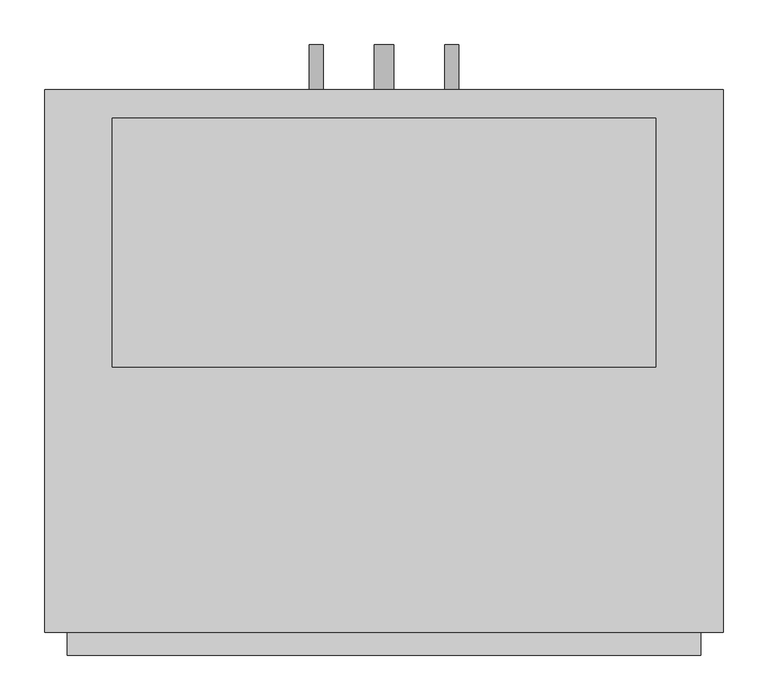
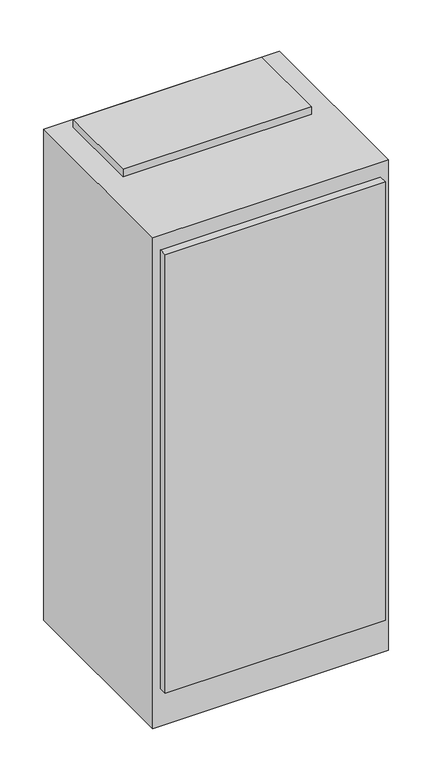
"""IFC4 building model written with IfcOpenShell, lengths in millimetres: proxy geometry, Concealed_Modular_Fan_Coil_Unit_-_42SMA_-_CARRIER_-_2-Pipe_Cool-EHeat_-_NoRisers_2022 : Size 14 - 277v/60Hz/1Ph - 5 Row 12.0kW."""

import ifcopenshell
import ifcopenshell.guid

model = None  # the IFC model being written
_history = None  # IfcOwnerHistory: only IFC2X3 demands one
_inside = {}  # id of a spatial element -> (the spatial element, [elements in it])
_under = {}  # id of a project, library or spatial element -> (it, [spatial elements below it])
_declared = {}  # id of a project -> (the project, [libraries it declares])
_typed = {}  # id of a type object -> (the type object, [elements of that type])
_made_of = {}  # id of a material, layer set ... -> (it, [elements and type objects made of it])


def new_model(schema):
    """Start an empty IFC model of exactly this schema.

    Asked for "IFC4X3", IfcOpenShell would pick the latest addendum, in which some entities
    have other attributes; the version numbers below select the first issue.
    IFC2X3 requires an IfcOwnerHistory on every rooted entity: one is made here for all.
    """
    global model, _history
    if schema == "IFC4X3":
        model = ifcopenshell.file(schema_version=(4, 3, 0, 0))
    else:
        model = ifcopenshell.file(schema=schema)
    _inside.clear()
    _under.clear()
    _declared.clear()
    _typed.clear()
    _made_of.clear()
    _history = None
    if model.schema == "IFC2X3":
        org = make("IfcOrganization", Name="unknown")
        user = make(
            "IfcPersonAndOrganization",
            ThePerson=make("IfcPerson", FamilyName="unknown"),
            TheOrganization=org,
        )
        app = make(
            "IfcApplication",
            ApplicationDeveloper=org,
            Version="unknown",
            ApplicationFullName="unknown",
            ApplicationIdentifier="unknown",
        )
        _history = make(
            "IfcOwnerHistory",
            OwningUser=user,
            OwningApplication=app,
            ChangeAction="ADDED",
            CreationDate=0,
        )
    return model


def make(cls, **values):
    """One entity of the class cls with the attributes given. An attribute that is None is left unset."""
    return model.create_entity(
        cls, **{name: value for name, value in values.items() if value is not None}
    )


def rooted(cls, **values):
    """An entity with a GlobalId (a new one), such as an element, a storey or a relation."""
    return make(cls, GlobalId=ifcopenshell.guid.new(), OwnerHistory=_history, **values)


def si_unit(unit_type, name, prefix=None):
    """IfcSIUnit, for example si_unit("LENGTHUNIT", "METRE", prefix="MILLI")."""
    return make("IfcSIUnit", UnitType=unit_type, Prefix=prefix, Name=name)


def assignment(units):
    """IfcUnitAssignment: the units of a project."""
    return None if units is None else make("IfcUnitAssignment", Units=units)


def point(xyz):
    """IfcCartesianPoint."""
    return None if xyz is None else make("IfcCartesianPoint", Coordinates=xyz)


def direction(xyz):
    """IfcDirection."""
    return None if xyz is None else make("IfcDirection", DirectionRatios=xyz)


def frame(location, z_axis=None, x_axis=None):
    """IfcAxis2Placement3D, a coordinate frame: its origin and axes. An axis left out is left unset."""
    return make(
        "IfcAxis2Placement3D",
        Location=point(location),
        Axis=direction(z_axis),
        RefDirection=direction(x_axis),
    )


def frame_2d(location, x_axis=None):
    """IfcAxis2Placement2D, a coordinate frame in the plane: its origin and x axis."""
    return make(
        "IfcAxis2Placement2D", Location=point(location), RefDirection=direction(x_axis)
    )


def origin():
    """The frame at (0, 0, 0) with its axes left unset."""
    return frame((0.0, 0.0, 0.0))


def origin_with_axes():
    """The frame at (0, 0, 0) with the z axis (0, 0, 1) and the x axis (1, 0, 0) written out."""
    return frame((0.0, 0.0, 0.0), z_axis=(0.0, 0.0, 1.0), x_axis=(1.0, 0.0, 0.0))


def place(relative_to, where):
    """IfcLocalPlacement: puts the frame where relative to a parent placement (None: the world)."""
    return make(
        "IfcLocalPlacement", PlacementRelTo=relative_to, RelativePlacement=where
    )


def context(
    kind, dimensions, precision=None, world=None, true_north=None, identifier=None
):
    """IfcGeometricRepresentationContext, for example the 3D "Model" context."""
    return make(
        "IfcGeometricRepresentationContext",
        ContextIdentifier=identifier,
        ContextType=kind,
        CoordinateSpaceDimension=dimensions,
        Precision=precision,
        WorldCoordinateSystem=world,
        TrueNorth=true_north,
    )


def project(units=None, contexts=None):
    """IfcProject with its units and contexts."""
    return rooted(
        "IfcProject",
        Name="project",
        RepresentationContexts=contexts,
        UnitsInContext=assignment(units),
    )


def spatial(cls, under=None, at=None, **own):
    """A site, building, storey or space (cls), placed at a placement, below another one or the project."""
    s = rooted(cls, ObjectPlacement=at, **own)
    if under is not None:
        _under.setdefault(under.id(), (under, []))[1].append(s)
    return s


def polyline(points):
    """IfcPolyline through the points."""
    return make("IfcPolyline", Points=[point(p) for p in points])


def circle_curve(where, radius):
    """IfcCircle in the frame where."""
    return make("IfcCircle", Position=where, Radius=radius)


def trimmed(basis, trim1, trim2, sense, master):
    """IfcTrimmedCurve: the piece of a basis curve between two trims."""
    return make(
        "IfcTrimmedCurve",
        BasisCurve=basis,
        Trim1=trim1,
        Trim2=trim2,
        SenseAgreement=sense,
        MasterRepresentation=master,
    )


def segment(curve, same_sense, transition):
    """IfcCompositeCurveSegment."""
    return make(
        "IfcCompositeCurveSegment",
        Transition=transition,
        SameSense=same_sense,
        ParentCurve=curve,
    )


def composite_curve(segments, self_intersect=None):
    """IfcCompositeCurve: segments joined end to end."""
    return make("IfcCompositeCurve", Segments=segments, SelfIntersect=self_intersect)


def outline(outer, holes=None, kind="AREA"):
    """IfcArbitraryClosedProfileDef: a profile drawn as a closed curve; with holes, ...WithVoids."""
    if holes is None:
        return make("IfcArbitraryClosedProfileDef", ProfileType=kind, OuterCurve=outer)
    return make(
        "IfcArbitraryProfileDefWithVoids",
        ProfileType=kind,
        OuterCurve=outer,
        InnerCurves=holes,
    )


def extrude(swept, where, along, depth):
    """IfcExtrudedAreaSolid: the profile swept, set in the frame where, extruded along a direction by depth."""
    return make(
        "IfcExtrudedAreaSolid",
        SweptArea=swept,
        Position=where,
        ExtrudedDirection=direction(along),
        Depth=depth,
    )


def shape(context_of_items, identifier, shape_type, items):
    """IfcShapeRepresentation: the items that make up one representation, for example the "Body"."""
    return make(
        "IfcShapeRepresentation",
        ContextOfItems=context_of_items,
        RepresentationIdentifier=identifier,
        RepresentationType=shape_type,
        Items=items,
    )


def source(mapping_origin, context_of_items, identifier, shape_type, items):
    """IfcRepresentationMap: a shape defined once, which mapped items show again and again."""
    return make(
        "IfcRepresentationMap",
        MappingOrigin=mapping_origin,
        MappedRepresentation=shape(context_of_items, identifier, shape_type, items),
    )


def transform(
    local_origin,
    x_axis=None,
    y_axis=None,
    z_axis=None,
    scale=None,
    scale2=None,
    scale3=None,
    uniform=True,
):
    """IfcCartesianTransformationOperator3D, or its non-uniform kind. x_axis, y_axis, z_axis: its Axis1, 2, 3."""
    if uniform:
        return make(
            "IfcCartesianTransformationOperator3D",
            Axis1=direction(x_axis),
            Axis2=direction(y_axis),
            LocalOrigin=point(local_origin),
            Scale=scale,
            Axis3=direction(z_axis),
        )
    return make(
        "IfcCartesianTransformationOperator3DnonUniform",
        Axis1=direction(x_axis),
        Axis2=direction(y_axis),
        LocalOrigin=point(local_origin),
        Scale=scale,
        Axis3=direction(z_axis),
        Scale2=scale2,
        Scale3=scale3,
    )


def mapped(mapping_source, mapping_target):
    """IfcMappedItem: shows the shape of a source again, moved by a transform."""
    return make(
        "IfcMappedItem", MappingSource=mapping_source, MappingTarget=mapping_target
    )


def made_of(thing, what):
    """Note that an element or type object is made of a material, layer set ...; save() writes the relation."""
    if what is not None:
        _made_of.setdefault(what.id(), (what, []))[1].append(thing)
    return thing


def element(
    cls,
    number,
    at=None,
    inside=None,
    cuts=None,
    type_object=None,
    material=None,
    context=None,
    identifier="Body",
    shape_type=None,
    held_by="IfcProductDefinitionShape",
    body=None,
    shapes=None,
    **own,
):
    """One element of the class cls, such as IfcWall. Its Tag is "e" and its number.

    at: its placement. inside: the storey or other place that contains it. cuts: it is an
    opening in that element (IfcRelVoidsElement). A single representation is given by context,
    identifier, shape_type and body (its items); several are given by shapes. held_by: the class
    of the entity that holds the representations. save() writes the other relations.
    """
    e = rooted(cls, Tag="e%d" % number, ObjectPlacement=at, **own)
    if body is not None:
        shapes = [shape(context, identifier, shape_type, body)]
    if shapes is not None:
        e.Representation = make(held_by, Representations=shapes)
    if inside is not None:
        _inside.setdefault(inside.id(), (inside, []))[1].append(e)
    if cuts is not None:
        rooted(
            "IfcRelVoidsElement", RelatingBuildingElement=cuts, RelatedOpeningElement=e
        )
    if type_object is not None:
        _typed.setdefault(type_object.id(), (type_object, []))[1].append(e)
    return made_of(e, material)


def aggregate(whole, parts):
    """IfcRelAggregates: a whole, such as a stair, and the parts it consists of."""
    return rooted("IfcRelAggregates", RelatingObject=whole, RelatedObjects=parts)


def save(model, path):
    """Write the relations noted so far, then the file.

    IfcRelAggregates (storeys below a building ...), IfcRelContainedInSpatialStructure (elements
    in a storey), IfcRelDefinesByType, IfcRelAssociatesMaterial and IfcRelDeclares: one each for
    every whole, place, type object, material and project.
    """
    for whole, parts in _under.values():
        aggregate(whole, parts)
    for where, things in _inside.values():
        rooted(
            "IfcRelContainedInSpatialStructure",
            RelatedElements=things,
            RelatingStructure=where,
        )
    for kind, things in _typed.values():
        rooted("IfcRelDefinesByType", RelatedObjects=things, RelatingType=kind)
    for what, things in _made_of.values():
        rooted("IfcRelAssociatesMaterial", RelatedObjects=things, RelatingMaterial=what)
    for by, libraries in _declared.values():
        rooted("IfcRelDeclares", RelatingContext=by, RelatedDefinitions=libraries)
    model.write(path)


def mechanical_equipment_80fa2937(model_context):
    return source(origin(), model_context, "Body", "SweptSolid", [
        extrude(outline(composite_curve([segment(trimmed(circle_curve(frame_2d((990.6, 609.6)), 7.9375), [point((990.6, 601.6625))], [point((990.6, 617.5375))], False, "CARTESIAN"), True, "CONTINUOUS"), segment(trimmed(circle_curve(frame_2d((990.6, 609.6)), 7.9375), [point((990.6, 617.5375))], [point((990.6, 601.6625))], False, "CARTESIAN"), True, "CONTINUOUS")], self_intersect=False)), frame((0.0, 244.475, 0.0), z_axis=(0.0, 1.0, 0.0), x_axis=(0.0, 0.0, 1.0)), (0.0, 0.0, 1.0), 50.8),
        extrude(outline(composite_curve([segment(trimmed(circle_curve(frame_2d((990.6, 457.2)), 7.9375), [point((990.6, 449.2625))], [point((990.6, 465.1375))], False, "CARTESIAN"), True, "CONTINUOUS"), segment(trimmed(circle_curve(frame_2d((990.6, 457.2)), 7.9375), [point((990.6, 465.1375))], [point((990.6, 449.2625))], False, "CARTESIAN"), True, "CONTINUOUS")], self_intersect=False)), frame((0.0, 244.475, 0.0), z_axis=(0.0, 1.0, 0.0), x_axis=(0.0, 0.0, 1.0)), (0.0, 0.0, 1.0), 50.8),
        extrude(outline(composite_curve([segment(trimmed(circle_curve(frame_2d((76.2, 533.4)), 11.1125), [point((76.2, 522.2875))], [point((76.2, 544.5125))], False, "CARTESIAN"), True, "CONTINUOUS"), segment(trimmed(circle_curve(frame_2d((76.2, 533.4)), 11.1125), [point((76.2, 544.5125))], [point((76.2, 522.2875))], False, "CARTESIAN"), True, "CONTINUOUS")], self_intersect=False)), frame((0.0, 244.475, 0.0), z_axis=(0.0, 1.0, 0.0), x_axis=(0.0, 0.0, 1.0)), (0.0, 0.0, 1.0), 50.8),
        extrude(outline(polyline([(838.2, 212.725), (838.2, -66.675), (228.6, -66.675), (228.6, 212.725), (838.2, 212.725)])), frame((0.0, 0.0, 1676.4), z_axis=(0.0, 0.0, 1.0), x_axis=(1.0, 0.0, 0.0)), (0.0, 0.0, 1.0), 25.4),
        extrude(outline(polyline([(889.0, -390.525), (177.8, -390.525), (177.8, -365.125), (889.0, -365.125), (889.0, -390.525)])), frame((0.0, 0.0, 127.0), z_axis=(0.0, 0.0, 1.0), x_axis=(1.0, 0.0, 0.0)), (0.0, 0.0, 1.0), 1498.6),
        extrude(outline(polyline([(914.4, 244.475), (914.4, -365.125), (152.4, -365.125), (152.4, 244.475), (914.4, 244.475)])), origin_with_axes(), (0.0, 0.0, 1.0), 1676.4),
    ])


if __name__ == "__main__":
    model = new_model("IFC4")
    model_context = context("Model", 3, world=origin())
    ifc_project = project(units=[si_unit("LENGTHUNIT", "METRE", prefix="MILLI")], contexts=[model_context])
    site = spatial("IfcSite", under=ifc_project)
    building = spatial("IfcBuilding", under=site)
    placement = place(None, origin())
    mechanical_equipment_shape = mechanical_equipment_80fa2937(model_context)
    element("IfcBuildingElementProxy", 1, Name="Concealed_Modular_Fan_Coil_Unit_-_42SMA_-_CARRIER_-_2-Pipe_Cool-EHeat_-_NoRisers_2022 : Size 14 - 277v/60Hz/1Ph - 5 Row 12.0kW", ObjectType="Concealed_Modular_Fan_Coil_Unit_-_42SMA_-_CARRIER_-_2-Pipe_Cool-EHeat_-_NoRisers_2022 : Size 14 - 277v/60Hz/1Ph - 5 Row 12.0kW", at=placement, inside=building, context=model_context, shape_type="MappedRepresentation", body=[
        mapped(mechanical_equipment_shape, transform((0.0, 0.0, 0.0), x_axis=(1.0, 0.0, 0.0), y_axis=(0.0, 1.0, 0.0), z_axis=(0.0, 0.0, 1.0))),
    ])
    save(model, "model.ifc")
